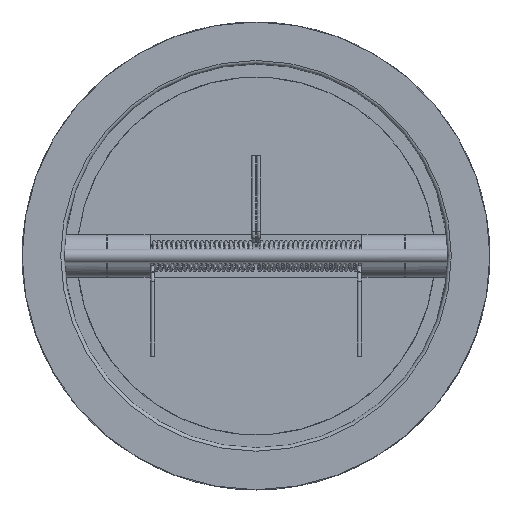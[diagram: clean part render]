
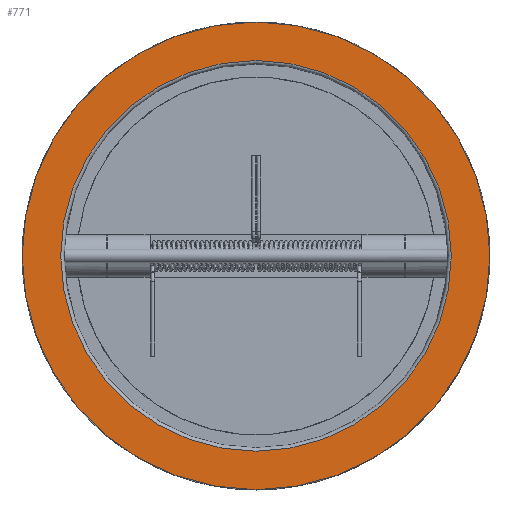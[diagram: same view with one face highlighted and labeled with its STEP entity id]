
A CAD part, top view. The second image highlights one B-rep face of the part: STEP entity #771.
In plain terms, the highlighted planar face has unit normal (0, 0, 1).
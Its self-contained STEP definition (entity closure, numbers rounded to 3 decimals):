
#771 = ADVANCED_FACE( '', ( #1642, #1643 ), #1644, .F. );
#1642 = FACE_BOUND( '', #13588, .T. );
#1643 = FACE_OUTER_BOUND( '', #13589, .T. );
#1644 = PLANE( '', #13590 );
#13588 = EDGE_LOOP( '', ( #16466 ) );
#13589 = EDGE_LOOP( '', ( #16467 ) );
#13590 = AXIS2_PLACEMENT_3D( '', #16468, #16469, #16470 );
#16466 = ORIENTED_EDGE( '', *, *, #17042, .T. );
#16467 = ORIENTED_EDGE( '', *, *, #17715, .F. );
#16468 = CARTESIAN_POINT( '', ( 0., 0., 44.5 ) );
#16469 = DIRECTION( '', ( 0., 0., -1. ) );
#16470 = DIRECTION( '', ( -1., 0., 0. ) );
#17042 = EDGE_CURVE( '', #18053, #18053, #18054, .T. );
#17715 = EDGE_CURVE( '', #19030, #19030, #19031, .T. );
#18053 = VERTEX_POINT( '', #20127 );
#18054 = CIRCLE( '', #20128, 114. );
#19030 = VERTEX_POINT( '', #26684 );
#19031 = CIRCLE( '', #26685, 136.5 );
#20127 = CARTESIAN_POINT( '', ( -114., 0., 44.5 ) );
#20128 = AXIS2_PLACEMENT_3D( '', #27537, #27538, #27539 );
#26684 = CARTESIAN_POINT( '', ( 136.5, 0., 44.5 ) );
#26685 = AXIS2_PLACEMENT_3D( '', #27778, #27779, #27780 );
#27537 = CARTESIAN_POINT( '', ( 0., 0., 44.5 ) );
#27538 = DIRECTION( '', ( 0., 0., -1. ) );
#27539 = DIRECTION( '', ( -1., 0., 0. ) );
#27778 = CARTESIAN_POINT( '', ( 0., 0., 44.5 ) );
#27779 = DIRECTION( '', ( 0., 0., -1. ) );
#27780 = DIRECTION( '', ( 1., 0., 0. ) );
